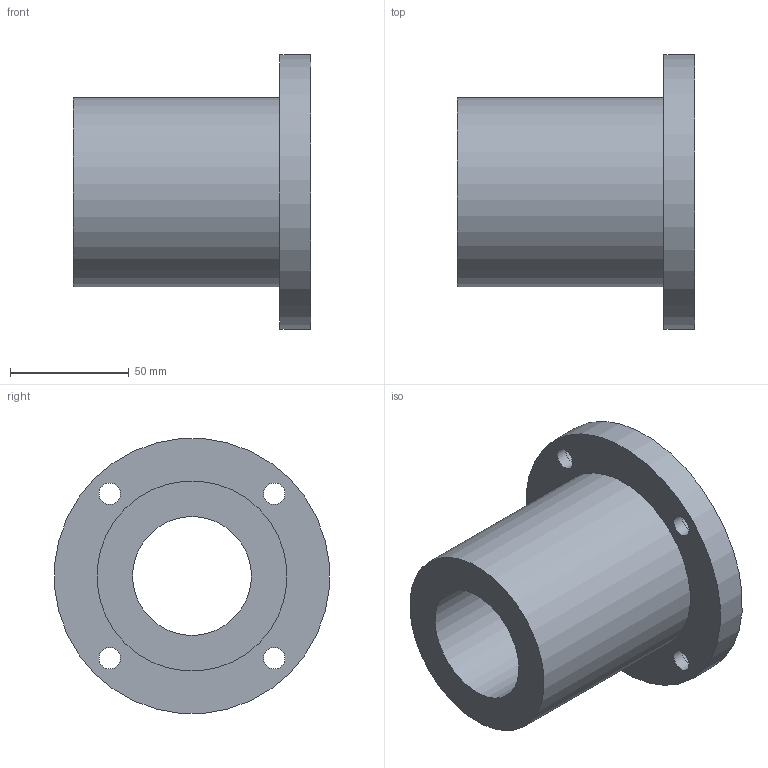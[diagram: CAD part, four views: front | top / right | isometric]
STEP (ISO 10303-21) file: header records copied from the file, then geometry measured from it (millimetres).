
FILE_DESCRIPTION(/* description */ (''),/* implementation_level */ '2;1');
FILE_NAME(/* name */ 'LMF50UU',/* time_stamp */ '2019-07-03T09:08:39+02:00',/* author */ ('VĂ©gh MĂˇtĂ©'),/* organization */ ('Bearing Kft'),/* preprocessor_version */ 'ST-DEVELOPER v16.7',/* originating_system */ 'DEX',/* authorisation */ $);
FILE_SCHEMA (('AUTOMOTIVE_DESIGN {1 0 10303 214 3 1 1}'));
Length unit declared in the file: millimetre
Products named in the file (1): LMF50UU
Bounding box: 100 x 115.56 x 115.56 mm (x, y, z)
Volume: 372092.7 mm3; surface area: 61043.9 mm2
Topology: 1 solids, 1 shells, 318 faces, 795 edges, 530 vertices
Faces by surface type: plane 246, bspline 60, cylinder 12
Full cylindrical faces by diameter (mm): 9 x4, 14 x4, 50 x1, 80 x1, 116 x1
Entity records: 12907 total; most frequent: CARTESIAN_POINT 5674, ORIENTED_EDGE 1562, DIRECTION 1203, EDGE_CURVE 781, LINE 637, VECTOR 637, VERTEX_POINT 530, EDGE_LOOP 393
